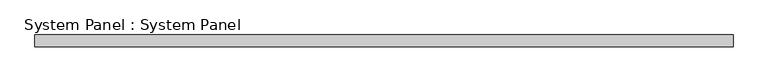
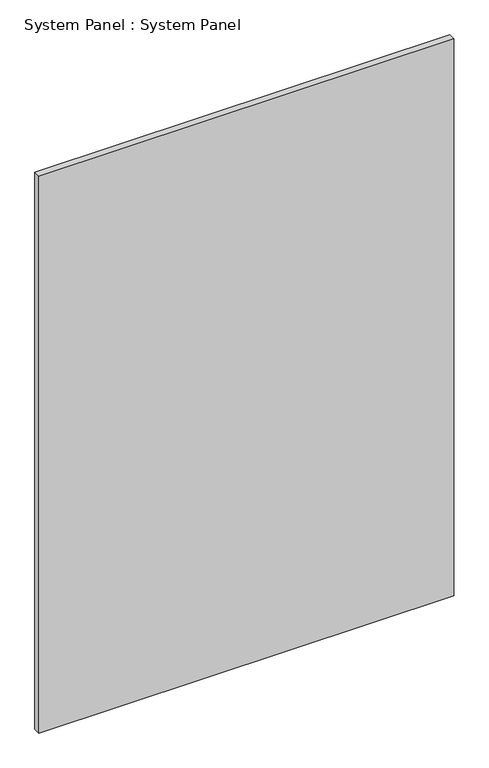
"""IFC4 building model written with IfcOpenShell, lengths in millimetres: plate geometry, System Panel : System Panel."""

from ifc_helpers import new_model, si_unit, origin, origin_with_axes, place, context, project, spatial, polyline, outline, extrude, source, transform, mapped, element, save


def system_panel_system_panel_7bef43a2(model_context):
    return source(origin(), model_context, "Body", "SweptSolid", [
        extrude(outline(polyline([(740.0, 24.5), (-740.0, 24.5), (-740.0, 49.5), (740.0, 49.5), (740.0, 24.5)])), origin_with_axes(), (0.0, 0.0, 1.0), 2100.3111283),
    ])


if __name__ == "__main__":
    model = new_model("IFC4")
    model_context = context("Model", 3, world=origin())
    ifc_project = project(units=[si_unit("LENGTHUNIT", "METRE", prefix="MILLI")], contexts=[model_context])
    site = spatial("IfcSite", under=ifc_project)
    building = spatial("IfcBuilding", under=site)
    placement = place(None, origin())
    system_panel_system_panel_shape = system_panel_system_panel_7bef43a2(model_context)
    element("IfcPlate", 1, ObjectType="System Panel : System Panel", at=placement, inside=building, context=model_context, shape_type="MappedRepresentation", body=[
        mapped(system_panel_system_panel_shape, transform((0.0, 0.0, 0.0), x_axis=(1.0, 0.0, 0.0), y_axis=(0.0, 1.0, 0.0), z_axis=(0.0, 0.0, 1.0))),
    ])
    save(model, "model.ifc")
